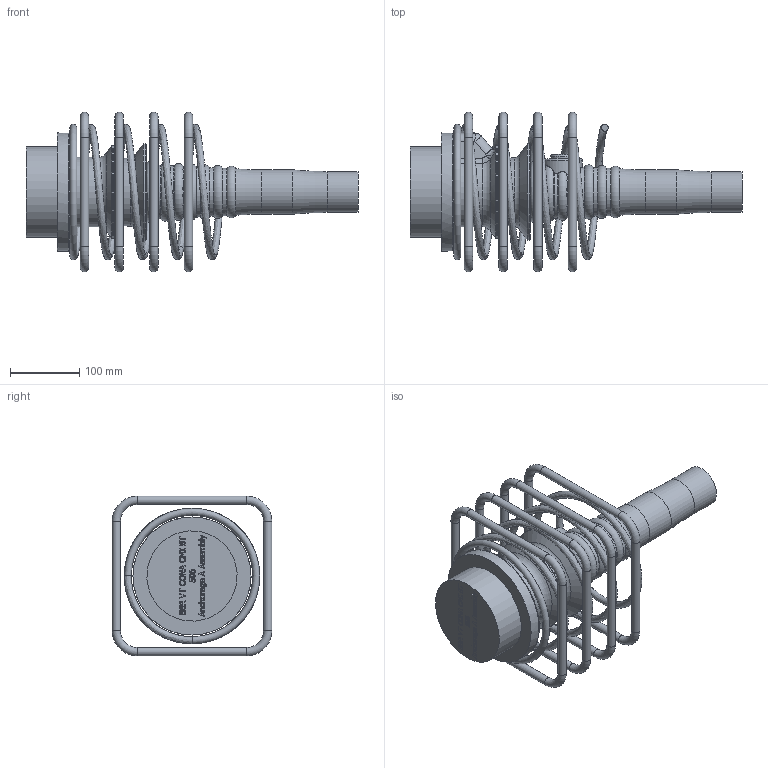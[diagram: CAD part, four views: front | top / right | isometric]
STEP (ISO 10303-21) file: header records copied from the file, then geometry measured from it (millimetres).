
FILE_DESCRIPTION(/* description */ (''),/* implementation_level */ '2;1');
FILE_NAME(/* name */ 'BBR VT CONA CMI BT 506_Anchorage A Assembly_CS-34,28.stp',/* time_stamp */ '2025-04-30T08:44:52+02:00',/* author */ ('tk'),/* organization */ (''),/* preprocessor_version */ 'ST-DEVELOPER v20',/* originating_system */ 'Autodesk Inventor 2024',/* authorisation */ '');
FILE_SCHEMA (('AUTOMOTIVE_DESIGN { 1 0 10303 214 3 1 1 }'));
Length unit declared in the file: millimetre
Products named in the file (1): BBR VT CONA CMI BT 506_Anchorage A Assembly_CS-34,28
Bounding box: 478.1 x 230 x 230 mm (x, y, z)
Volume: 3978716.5 mm3; surface area: 461781.8 mm2
Topology: 8 solids, 8 shells, 750 faces, 1989 edges, 1298 vertices
Faces by surface type: plane 318, bspline 316, torus 56, cylinder 38, sphere 12, cone 10
Full cylindrical faces by diameter (mm): 12 x16, 34 x1, 57 x1, 59 x1, 64 x1, 79.5 x2, 88 x1, 130 x1, 133.801 x1, 139.387 x1, 170 x1
Entity records: 29589 total; most frequent: CARTESIAN_POINT 12670, ORIENTED_EDGE 3966, DIRECTION 2481, EDGE_CURVE 1983, VERTEX_POINT 1298, LINE 1079, VECTOR 1079, EDGE_LOOP 807
